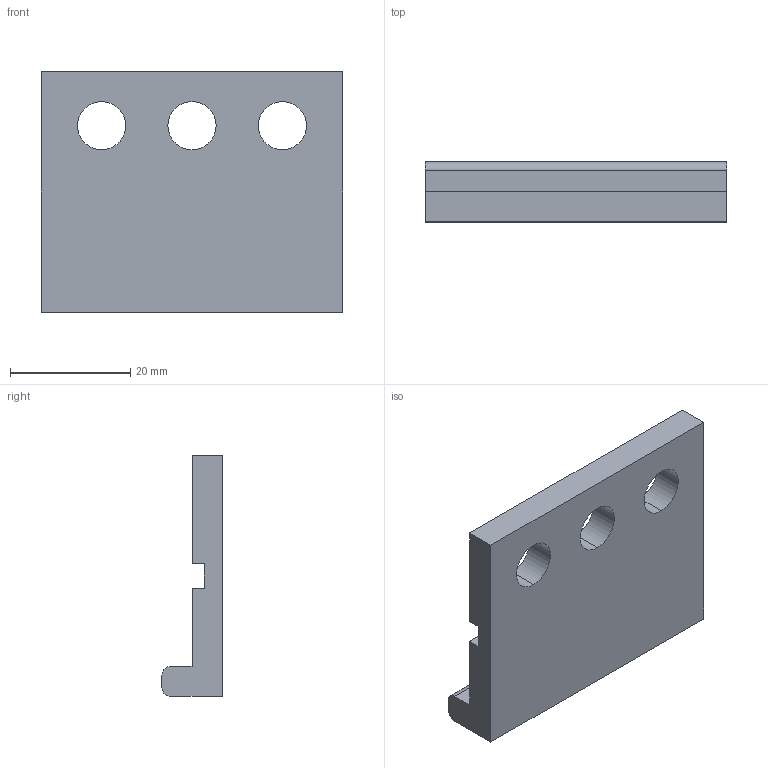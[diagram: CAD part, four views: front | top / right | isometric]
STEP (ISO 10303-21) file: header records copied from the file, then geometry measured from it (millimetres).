
FILE_DESCRIPTION (( 'STEP AP214' ), '1' );
FILE_NAME ('Part1.STEP', '2026-02-19T05:47:43', ( '' ), ( '' ), 'SwSTEP 2.0', 'SolidWorks 2025', '' );
FILE_SCHEMA (( 'AUTOMOTIVE_DESIGN' ));
Length unit declared in the file: millimetre
Products named in the file (1): Part1
Bounding box: 50 x 10 x 40 mm (x, y, z)
Volume: 10047.7 mm3; surface area: 5643.1 mm2
Topology: 1 solids, 1 shells, 20 faces, 54 edges, 36 vertices
Faces by surface type: plane 12, cylinder 8
Entity records: 669 total; most frequent: DIRECTION 112, CARTESIAN_POINT 111, ORIENTED_EDGE 108, EDGE_CURVE 54, VECTOR 38, LINE 38, AXIS2_PLACEMENT_3D 37, VERTEX_POINT 36
